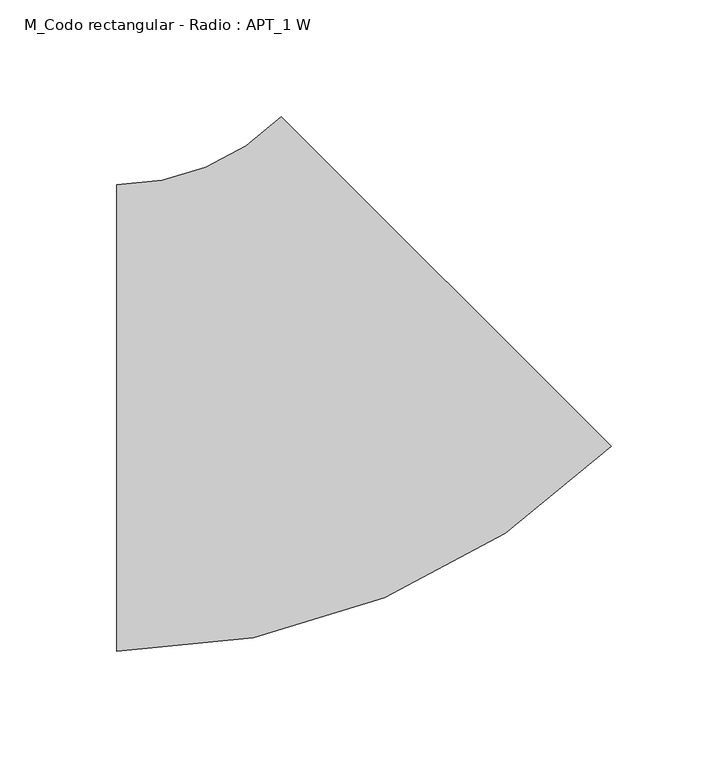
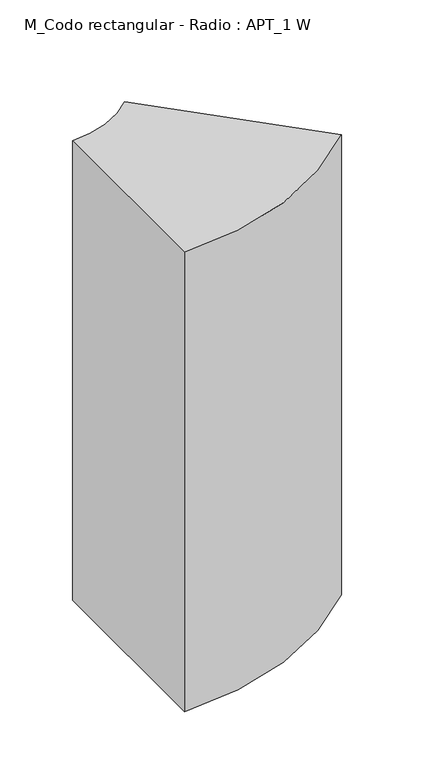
"""IFC4 building model written with IfcOpenShell, lengths in millimetres: duct fitting geometry, M_Codo rectangular - Radio : APT_1 W."""

from ifc_helpers import new_model, si_unit, point, frame, frame_2d, origin, place, context, project, spatial, polyline, circle_curve, trimmed, segment, composite_curve, outline, extrude, source, transform, mapped, element, save


def m_codo_rectangular_radio_apt_1_w_cd8a0157(model_context):
    return source(origin(), model_context, "Body", "SweptSolid", [
        extrude(outline(composite_curve([segment(trimmed(circle_curve(frame_2d((-82.8427125, 200.0)), 300.0), [point((129.2893219, -12.1320344))], [point((-82.8427125, -100.0))], False, "CARTESIAN"), True, "CONTINUOUS"), segment(polyline([(-82.8427125, -100.0), (-82.8427125, 100.0)]), True, "CONTINUOUS"), segment(trimmed(circle_curve(frame_2d((-82.8427125, 200.0)), 100.0), [point((-82.8427125, 100.0))], [point((-12.1320344, 129.2893219))], True, "CARTESIAN"), True, "CONTINUOUS"), segment(polyline([(-12.1320344, 129.2893219), (129.2893219, -12.1320344)]), True, "CONTINUOUS")], self_intersect=False)), frame((0.0, 0.0, -250.0), z_axis=(0.0, 0.0, 1.0), x_axis=(1.0, 0.0, 0.0)), (0.0, 0.0, 1.0), 500.0),
    ])


if __name__ == "__main__":
    model = new_model("IFC4")
    model_context = context("Model", 3, world=origin())
    ifc_project = project(units=[si_unit("LENGTHUNIT", "METRE", prefix="MILLI")], contexts=[model_context])
    site = spatial("IfcSite", under=ifc_project)
    building = spatial("IfcBuilding", under=site)
    placement = place(None, origin())
    m_codo_rectangular_radio_apt_1_w_shape = m_codo_rectangular_radio_apt_1_w_cd8a0157(model_context)
    element("IfcDuctFitting", 1, ObjectType="M_Codo rectangular - Radio : APT_1 W", at=placement, inside=building, context=model_context, shape_type="MappedRepresentation", body=[
        mapped(m_codo_rectangular_radio_apt_1_w_shape, transform((0.0, 0.0, 0.0), x_axis=(1.0, 0.0, 0.0), y_axis=(0.0, 1.0, 0.0), z_axis=(0.0, 0.0, 1.0))),
    ])
    save(model, "model.ifc")
